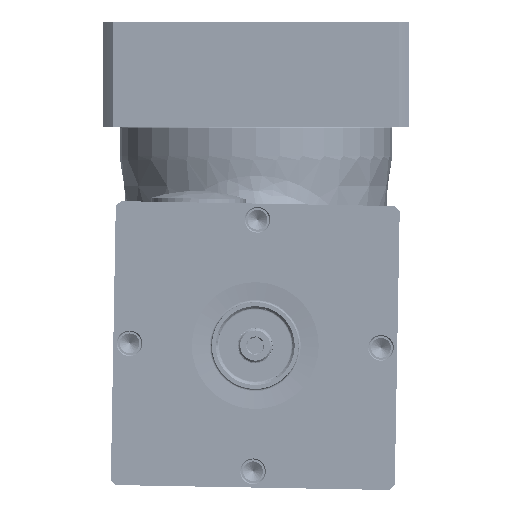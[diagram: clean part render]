
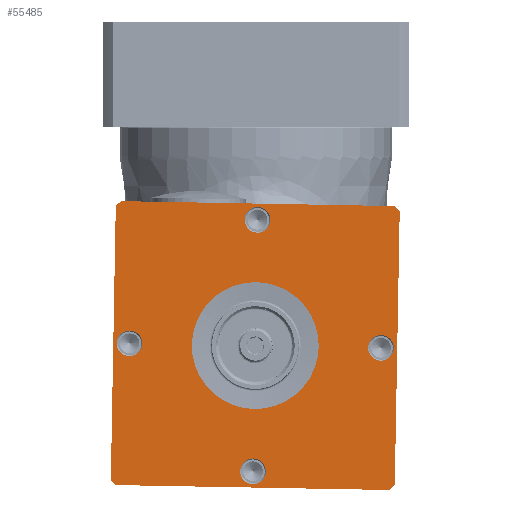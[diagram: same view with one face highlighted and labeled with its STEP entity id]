
A CAD part, front view. The second image highlights one B-rep face of the part: STEP entity #55485.
In plain terms, the highlighted planar face has unit normal (0, -1, 0) as drawn and (0, 0, 1) by its records, which use the part's own axes.
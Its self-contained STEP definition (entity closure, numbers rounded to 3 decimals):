
#1696 = CIRCLE ( 'NONE', #65949, 50. ) ;
#1930 = EDGE_LOOP ( 'NONE', ( #58479 ) ) ;
#1954 = FACE_BOUND ( 'NONE', #57609, .T. ) ;
#2286 = FACE_BOUND ( 'NONE', #1930, .T. ) ;
#2619 = DIRECTION ( 'NONE',  ( 0., 0., 1. ) ) ;
#2644 = DIRECTION ( 'NONE',  ( 1., 0., 0. ) ) ;
#2889 = DIRECTION ( 'NONE',  ( -1., 0., 0. ) ) ;
#4124 = DIRECTION ( 'NONE',  ( 0., 0., -1. ) ) ;
#4365 = CARTESIAN_POINT ( 'NONE',  ( 36., 34.699, 42. ) ) ;
#4380 = VERTEX_POINT ( 'NONE', #4365 ) ;
#4942 = CARTESIAN_POINT ( 'NONE',  ( 0., 0., 42. ) ) ;
#4980 = ORIENTED_EDGE ( 'NONE', *, *, #41304, .F. ) ;
#6891 = EDGE_LOOP ( 'NONE', ( #15940, #28095, #43143, #58046, #32796, #42545, #18634, #4980 ) ) ;
#8048 = EDGE_CURVE ( 'NONE', #21448, #66061, #33657, .T. ) ;
#8094 = CARTESIAN_POINT ( 'NONE',  ( 0., 0., 42. ) ) ;
#8844 = DIRECTION ( 'NONE',  ( 0., 0., -1. ) ) ;
#8891 = VERTEX_POINT ( 'NONE', #51132 ) ;
#8917 = CARTESIAN_POINT ( 'NONE',  ( -36., -34.699, 42. ) ) ;
#8945 = EDGE_CURVE ( 'NONE', #57071, #57071, #12671, .T. ) ;
#11568 = DIRECTION ( 'NONE',  ( 1., 0., 0. ) ) ;
#12094 = AXIS2_PLACEMENT_3D ( 'NONE', #46361, #66150, #50864 ) ;
#12294 = CARTESIAN_POINT ( 'NONE',  ( 35.127, 0., 42. ) ) ;
#12572 = CARTESIAN_POINT ( 'NONE',  ( -28.627, 0., 42. ) ) ;
#12671 = CIRCLE ( 'NONE', #25995, 16.094 ) ;
#12818 = EDGE_CURVE ( 'NONE', #8891, #8891, #33541, .T. ) ;
#13898 = CARTESIAN_POINT ( 'NONE',  ( 0., 31.877, 42. ) ) ;
#15940 = ORIENTED_EDGE ( 'NONE', *, *, #28362, .F. ) ;
#17928 = PLANE ( 'NONE',  #31863 ) ;
#18634 = ORIENTED_EDGE ( 'NONE', *, *, #43013, .F. ) ;
#19042 = DIRECTION ( 'NONE',  ( -1., 0., 0. ) ) ;
#19483 = CARTESIAN_POINT ( 'NONE',  ( -34.699, 36., 42. ) ) ;
#19950 = CARTESIAN_POINT ( 'NONE',  ( -36., 34.699, 42. ) ) ;
#19958 = DIRECTION ( 'NONE',  ( -1., 0., 0. ) ) ;
#20117 = EDGE_CURVE ( 'NONE', #38305, #38305, #28083, .T. ) ;
#20422 = AXIS2_PLACEMENT_3D ( 'NONE', #46058, #4124, #19042 ) ;
#20925 = DIRECTION ( 'NONE',  ( -1., 0., 0. ) ) ;
#21397 = CARTESIAN_POINT ( 'NONE',  ( -16.094, 0., 42. ) ) ;
#21448 = VERTEX_POINT ( 'NONE', #35250 ) ;
#21955 = ORIENTED_EDGE ( 'NONE', *, *, #57729, .F. ) ;
#22003 = LINE ( 'NONE', #59012, #65312 ) ;
#22206 = EDGE_CURVE ( 'NONE', #28528, #4380, #54682, .T. ) ;
#23043 = CARTESIAN_POINT ( 'NONE',  ( 0., 0., 42. ) ) ;
#23136 = EDGE_CURVE ( 'NONE', #36117, #36117, #60276, .T. ) ;
#23475 = DIRECTION ( 'NONE',  ( 0., 0., 1. ) ) ;
#24024 = CARTESIAN_POINT ( 'NONE',  ( 34.699, -36., 42. ) ) ;
#25552 = ORIENTED_EDGE ( 'NONE', *, *, #12818, .F. ) ;
#25819 = CARTESIAN_POINT ( 'NONE',  ( 0., 0., 42. ) ) ;
#25856 = DIRECTION ( 'NONE',  ( 0., -1., 0. ) ) ;
#25939 = ORIENTED_EDGE ( 'NONE', *, *, #8945, .T. ) ;
#25995 = AXIS2_PLACEMENT_3D ( 'NONE', #4942, #68381, #20925 ) ;
#26026 = DIRECTION ( 'NONE',  ( 0., 0., 1. ) ) ;
#28083 = CIRCLE ( 'NONE', #35846, 3.25 ) ;
#28095 = ORIENTED_EDGE ( 'NONE', *, *, #8048, .F. ) ;
#28362 = EDGE_CURVE ( 'NONE', #66061, #40694, #31181, .T. ) ;
#28528 = VERTEX_POINT ( 'NONE', #54999 ) ;
#28942 = LINE ( 'NONE', #35494, #34042 ) ;
#29284 = DIRECTION ( 'NONE',  ( 0., 0., -1. ) ) ;
#29740 = FACE_BOUND ( 'NONE', #52258, .T. ) ;
#30739 = CARTESIAN_POINT ( 'NONE',  ( 36., 36., 42. ) ) ;
#31181 = LINE ( 'NONE', #62305, #46342 ) ;
#31458 = CARTESIAN_POINT ( 'NONE',  ( 36., -34.699, 42. ) ) ;
#31863 = AXIS2_PLACEMENT_3D ( 'NONE', #39053, #23475, #2644 ) ;
#32719 = VERTEX_POINT ( 'NONE', #12572 ) ;
#32796 = ORIENTED_EDGE ( 'NONE', *, *, #44865, .F. ) ;
#33047 = AXIS2_PLACEMENT_3D ( 'NONE', #25819, #8844, #19958 ) ;
#33541 = CIRCLE ( 'NONE', #52296, 3.25 ) ;
#33657 = CIRCLE ( 'NONE', #41390, 50. ) ;
#34042 = VECTOR ( 'NONE', #39654, 1000. ) ;
#34576 = ORIENTED_EDGE ( 'NONE', *, *, #20117, .F. ) ;
#35250 = CARTESIAN_POINT ( 'NONE',  ( -34.699, -36., 42. ) ) ;
#35494 = CARTESIAN_POINT ( 'NONE',  ( 50., -36., 42. ) ) ;
#35846 = AXIS2_PLACEMENT_3D ( 'NONE', #42601, #26026, #63363 ) ;
#36117 = VERTEX_POINT ( 'NONE', #61716 ) ;
#36260 = VERTEX_POINT ( 'NONE', #31458 ) ;
#37939 = DIRECTION ( 'NONE',  ( -1., 0., 0. ) ) ;
#38305 = VERTEX_POINT ( 'NONE', #12294 ) ;
#39053 = CARTESIAN_POINT ( 'NONE',  ( 0., 50., 42. ) ) ;
#39393 = DIRECTION ( 'NONE',  ( 1., 0., 0. ) ) ;
#39654 = DIRECTION ( 'NONE',  ( -1., 0., 0. ) ) ;
#40694 = VERTEX_POINT ( 'NONE', #19950 ) ;
#41304 = EDGE_CURVE ( 'NONE', #40694, #53685, #52937, .T. ) ;
#41390 = AXIS2_PLACEMENT_3D ( 'NONE', #23043, #42778, #37939 ) ;
#41554 = DIRECTION ( 'NONE',  ( 0., 1., 0. ) ) ;
#41972 = CIRCLE ( 'NONE', #12094, 3.25 ) ;
#42545 = ORIENTED_EDGE ( 'NONE', *, *, #22206, .F. ) ;
#42601 = CARTESIAN_POINT ( 'NONE',  ( 31.877, 0., 42. ) ) ;
#42778 = DIRECTION ( 'NONE',  ( 0., 0., -1. ) ) ;
#43013 = EDGE_CURVE ( 'NONE', #53685, #28528, #22003, .T. ) ;
#43143 = ORIENTED_EDGE ( 'NONE', *, *, #54246, .F. ) ;
#44865 = EDGE_CURVE ( 'NONE', #4380, #36260, #63199, .T. ) ;
#46058 = CARTESIAN_POINT ( 'NONE',  ( 0., 0., 42. ) ) ;
#46342 = VECTOR ( 'NONE', #41554, 1000. ) ;
#46361 = CARTESIAN_POINT ( 'NONE',  ( -31.877, 0., 42. ) ) ;
#49425 = CARTESIAN_POINT ( 'NONE',  ( 0., -31.877, 42. ) ) ;
#50864 = DIRECTION ( 'NONE',  ( 1., 0., 0. ) ) ;
#51132 = CARTESIAN_POINT ( 'NONE',  ( 3.25, -31.877, 42. ) ) ;
#51958 = DIRECTION ( 'NONE',  ( 1., 0., 0. ) ) ;
#52258 = EDGE_LOOP ( 'NONE', ( #21955 ) ) ;
#52296 = AXIS2_PLACEMENT_3D ( 'NONE', #49425, #2619, #39393 ) ;
#52937 = CIRCLE ( 'NONE', #33047, 50. ) ;
#53685 = VERTEX_POINT ( 'NONE', #19483 ) ;
#54246 = EDGE_CURVE ( 'NONE', #61782, #21448, #28942, .T. ) ;
#54682 = CIRCLE ( 'NONE', #20422, 50. ) ;
#54999 = CARTESIAN_POINT ( 'NONE',  ( 34.699, 36., 42. ) ) ;
#55485 = ADVANCED_FACE ( 'NONE', ( #2286, #29740, #56006, #1954, #66773, #60837 ), #17928, .T. ) ;
#56006 = FACE_BOUND ( 'NONE', #67801, .T. ) ;
#56125 = DIRECTION ( 'NONE',  ( 0., 0., 1. ) ) ;
#57071 = VERTEX_POINT ( 'NONE', #21397 ) ;
#57520 = EDGE_LOOP ( 'NONE', ( #25939 ) ) ;
#57609 = EDGE_LOOP ( 'NONE', ( #34576 ) ) ;
#57729 = EDGE_CURVE ( 'NONE', #32719, #32719, #41972, .T. ) ;
#57888 = VECTOR ( 'NONE', #25856, 1000. ) ;
#58046 = ORIENTED_EDGE ( 'NONE', *, *, #68356, .F. ) ;
#58479 = ORIENTED_EDGE ( 'NONE', *, *, #23136, .F. ) ;
#59012 = CARTESIAN_POINT ( 'NONE',  ( -50., 36., 42. ) ) ;
#60276 = CIRCLE ( 'NONE', #61368, 3.25 ) ;
#60837 = FACE_BOUND ( 'NONE', #57520, .T. ) ;
#61368 = AXIS2_PLACEMENT_3D ( 'NONE', #13898, #56125, #51958 ) ;
#61716 = CARTESIAN_POINT ( 'NONE',  ( 3.25, 31.877, 42. ) ) ;
#61782 = VERTEX_POINT ( 'NONE', #24024 ) ;
#62305 = CARTESIAN_POINT ( 'NONE',  ( -36., -50., 42. ) ) ;
#63199 = LINE ( 'NONE', #30739, #57888 ) ;
#63363 = DIRECTION ( 'NONE',  ( 1., 0., 0. ) ) ;
#65312 = VECTOR ( 'NONE', #11568, 1000. ) ;
#65949 = AXIS2_PLACEMENT_3D ( 'NONE', #8094, #29284, #2889 ) ;
#66061 = VERTEX_POINT ( 'NONE', #8917 ) ;
#66150 = DIRECTION ( 'NONE',  ( 0., 0., 1. ) ) ;
#66773 = FACE_OUTER_BOUND ( 'NONE', #6891, .T. ) ;
#67801 = EDGE_LOOP ( 'NONE', ( #25552 ) ) ;
#68356 = EDGE_CURVE ( 'NONE', #36260, #61782, #1696, .T. ) ;
#68381 = DIRECTION ( 'NONE',  ( 0., 0., -1. ) ) ;
